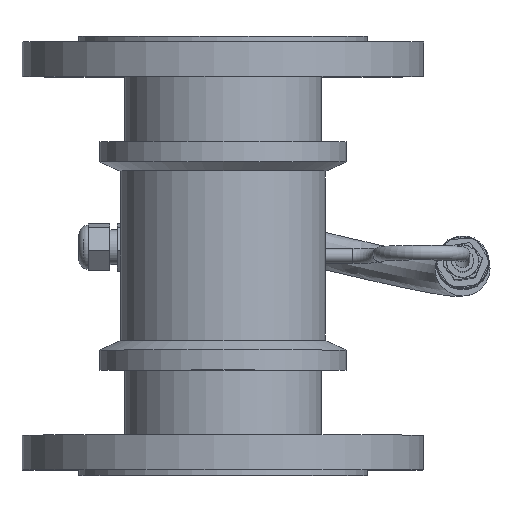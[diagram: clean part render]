
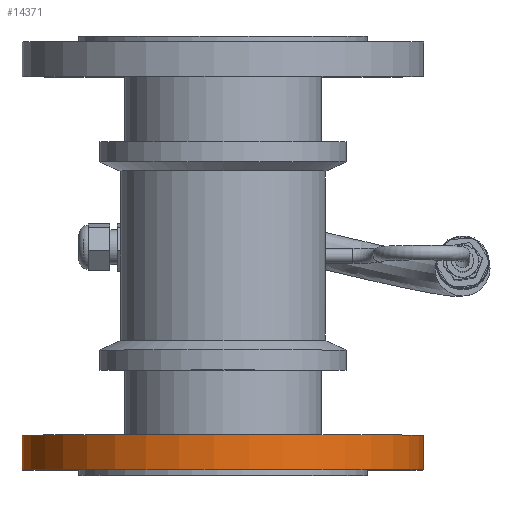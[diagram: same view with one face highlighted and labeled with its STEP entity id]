
A CAD part, front view. The second image highlights one B-rep face of the part: STEP entity #14371.
In plain terms, the highlighted cylindrical face has radius 110 mm (diameter 220 mm), a full revolution.
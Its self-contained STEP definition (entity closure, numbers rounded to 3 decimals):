
#1183=FACE_OUTER_BOUND('',#2081,.T.);
#2081=EDGE_LOOP('',(#9760,#9761,#9762,#9763));
#3118=LINE('',#21920,#4263);
#4263=VECTOR('',#17168,110.);
#5418=CIRCLE('',#15315,110.);
#5419=CIRCLE('',#15316,110.);
#6147=VERTEX_POINT('',#21917);
#6148=VERTEX_POINT('',#21919);
#7553=EDGE_CURVE('',#6147,#6147,#5418,.T.);
#7554=EDGE_CURVE('',#6147,#6148,#3118,.T.);
#7555=EDGE_CURVE('',#6148,#6148,#5419,.T.);
#9760=ORIENTED_EDGE('',*,*,#7553,.T.);
#9761=ORIENTED_EDGE('',*,*,#7554,.T.);
#9762=ORIENTED_EDGE('',*,*,#7555,.F.);
#9763=ORIENTED_EDGE('',*,*,#7554,.F.);
#14124=CYLINDRICAL_SURFACE('',#15314,110.);
#14371=ADVANCED_FACE('',(#1183),#14124,.T.);
#15314=AXIS2_PLACEMENT_3D('',#21916,#17164,#17165);
#15315=AXIS2_PLACEMENT_3D('',#21918,#17166,#17167);
#15316=AXIS2_PLACEMENT_3D('',#21921,#17169,#17170);
#17164=DIRECTION('center_axis',(0.,0.003,
1.));
#17165=DIRECTION('ref_axis',(0.924,-0.383,0.001));
#17166=DIRECTION('center_axis',(0.,-0.003,
-1.));
#17167=DIRECTION('ref_axis',(-0.924,0.383,-0.001));
#17168=DIRECTION('',(0.,-0.003,-1.));
#17169=DIRECTION('center_axis',(0.,-0.003,
-1.));
#17170=DIRECTION('ref_axis',(-0.924,0.383,-0.001));
#21916=CARTESIAN_POINT('Origin',(-375.041,172.075,7.643));
#21917=CARTESIAN_POINT('',(-476.668,214.219,26.535));
#21918=CARTESIAN_POINT('Origin',(-375.041,172.124,26.643));
#21919=CARTESIAN_POINT('',(-476.668,214.17,7.535));
#21920=CARTESIAN_POINT('',(-476.668,214.17,7.535));
#21921=CARTESIAN_POINT('Origin',(-375.041,172.075,7.643));
